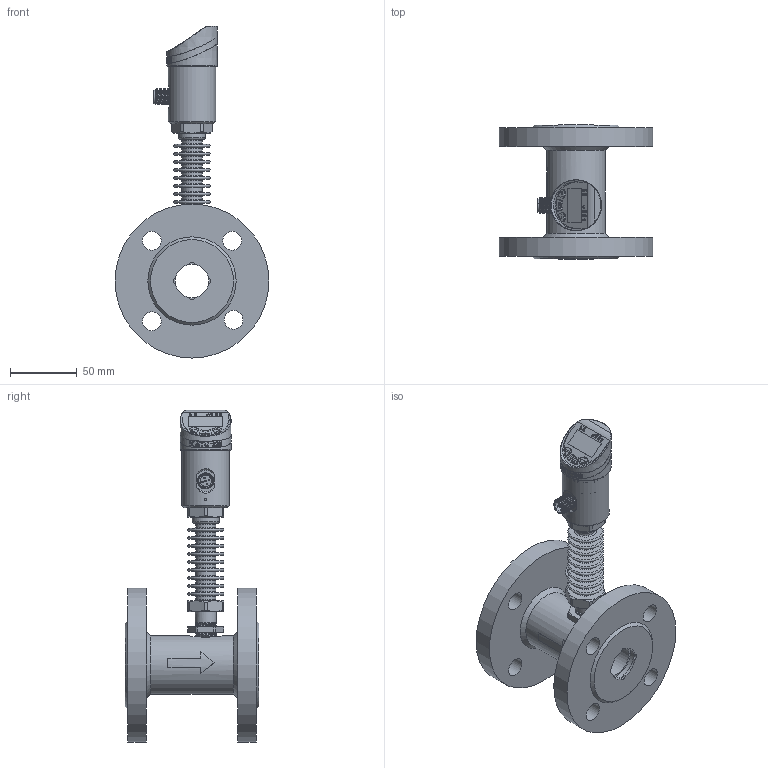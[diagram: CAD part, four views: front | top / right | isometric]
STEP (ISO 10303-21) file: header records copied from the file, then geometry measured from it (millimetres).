
FILE_DESCRIPTION( (''), '2;1');
FILE_NAME( 'QTKE_DN25_flange_high-temp.step', '2024-10-14T15:45:13+08:00', (''), (''), '', '', '');
FILE_SCHEMA (('AUTOMOTIVE_DESIGN { 1 0 10303 214 3 1 1 1 }'));
Length unit declared in the file: millimetre
Products named in the file (1): QTKE DN25_flange_high-temp
Bounding box: 115 x 100 x 248 mm (x, y, z)
Volume: 382370.1 mm3; surface area: 112183.7 mm2
Topology: 5 solids, 5 shells, 1033 faces, 2645 edges, 1716 vertices
Faces by surface type: plane 422, cylinder 196, extrusion 160, cone 114, bspline 60, torus 60, sphere 21
Full cylindrical faces by diameter (mm): 1.689 x1, 2 x1, 2.7 x6, 3.5 x5, 12 x1, 13 x1, 14 x8, 15 x10, 15.9 x1, 16.5 x1, 20 x1, 23 x3, 25 x1, 26 x5, 28 x2, 31.7 x1, 32 x1, 34 x1, 34.2 x1, 35.5 x2, 44 x1, 115 x2
Entity records: 45484 total; most frequent: CARTESIAN_POINT 17615, ORIENTED_EDGE 4888, DIRECTION 4344, EDGE_CURVE 2444, VERTEX_POINT 1661, AXIS2_PLACEMENT_3D 1575, EDGE_LOOP 1299, VECTOR 1194
